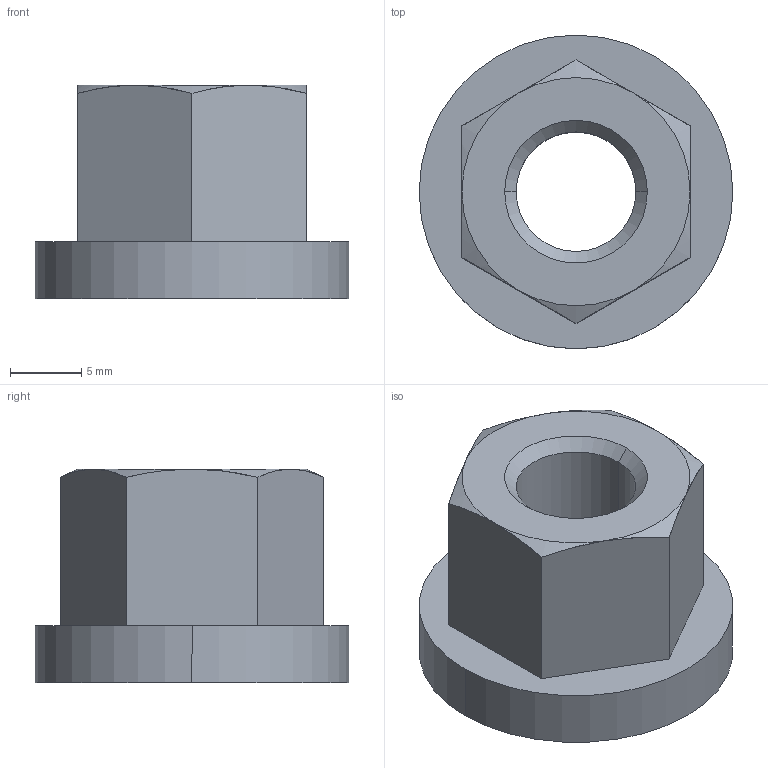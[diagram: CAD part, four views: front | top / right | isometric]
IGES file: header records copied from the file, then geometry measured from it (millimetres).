
Start section: 3D InterOp IGES (v. 2018 1.0.2), Spatial Corp. Copyright (c) 1999-2017.
Global section: file name: HWS_9014_10.igs; native system: Spatial Corp.; preprocessor: 3D InterOp GENERIC/IGES 3.0; author: Noname; organization: Noname; date: 20191010.134755; units: metre
Bounding box: 22 x 22 x 15 mm (x, y, z)
Surface area: 1898.9 mm2 (no closed solid volume)
Topology: 0 solids, 0 shells, 23 faces, 100 edges, 100 vertices
Faces by surface type: revolution 14, extrusion 9
